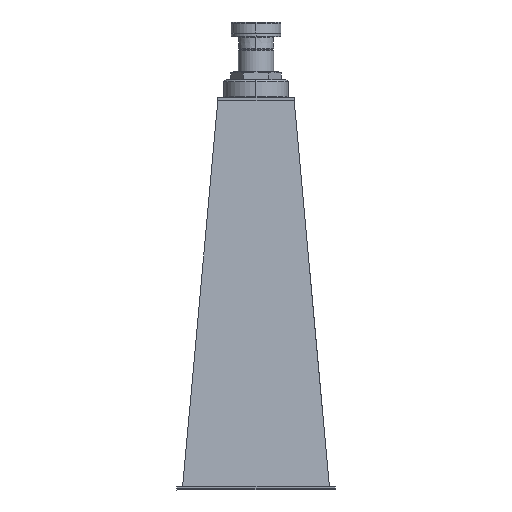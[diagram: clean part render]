
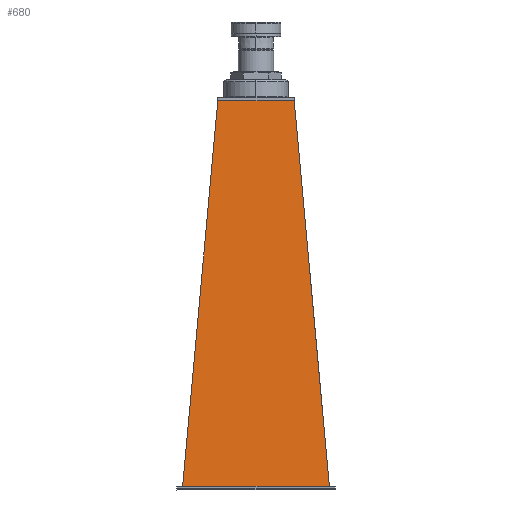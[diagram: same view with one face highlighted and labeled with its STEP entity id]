
A CAD part, left-side view. The second image highlights one B-rep face of the part: STEP entity #680.
In plain terms, the highlighted planar face has unit normal (-0.996, 0, 0.091).
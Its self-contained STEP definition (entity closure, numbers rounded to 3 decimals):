
#680=ADVANCED_FACE('',(#1384),#1385,.T.);
#1384=FACE_OUTER_BOUND('',#2151,.T.);
#1385=PLANE('',#2152);
#2151=EDGE_LOOP('',(#4196,#4197,#4198,#4199));
#2152=AXIS2_PLACEMENT_3D('',#4200,#4201,#4202);
#4196=ORIENTED_EDGE('',*,*,#5191,.T.);
#4197=ORIENTED_EDGE('',*,*,#4939,.F.);
#4198=ORIENTED_EDGE('',*,*,#5179,.T.);
#4199=ORIENTED_EDGE('',*,*,#5206,.T.);
#4200=CARTESIAN_POINT('',(47.916,219.332,663.273));
#4201=DIRECTION('',(-0.996,0.,0.091));
#4202=DIRECTION('',(0.,1.0,0.));
#4939=EDGE_CURVE('',#5962,#5957,#5964,.F.);
#5179=EDGE_CURVE('',#5962,#6276,#6278,.F.);
#5191=EDGE_CURVE('',#6297,#5957,#6300,.T.);
#5206=EDGE_CURVE('',#6276,#6297,#6319,.F.);
#5957=VERTEX_POINT('',#7703);
#5962=VERTEX_POINT('',#7710);
#5964=LINE('',#7713,#7714);
#6276=VERTEX_POINT('',#8282);
#6278=LINE('',#8285,#8286);
#6297=VERTEX_POINT('',#8313);
#6300=LINE('',#8318,#8319);
#6319=LINE('',#8346,#8347);
#7703=CARTESIAN_POINT('',(-12.109,32.319,6.));
#7710=CARTESIAN_POINT('',(47.891,92.319,663.));
#7713=CARTESIAN_POINT('',(48.449,92.877,669.11));
#7714=VECTOR('',#8911,1.);
#8282=CARTESIAN_POINT('',(47.891,222.344,663.));
#8285=CARTESIAN_POINT('',(47.891,188.332,663.));
#8286=VECTOR('',#9081,1.);
#8313=CARTESIAN_POINT('',(-12.109,282.344,6.));
#8318=CARTESIAN_POINT('',(-12.109,188.332,6.));
#8319=VECTOR('',#9092,1.);
#8346=CARTESIAN_POINT('',(48.449,221.786,669.11));
#8347=VECTOR('',#9101,1.);
#8911=DIRECTION('',(0.091,0.091,0.992));
#9081=DIRECTION('',(0.,-1.0,0.));
#9092=DIRECTION('',(0.,-1.0,0.));
#9101=DIRECTION('',(0.091,-0.091,0.992));
